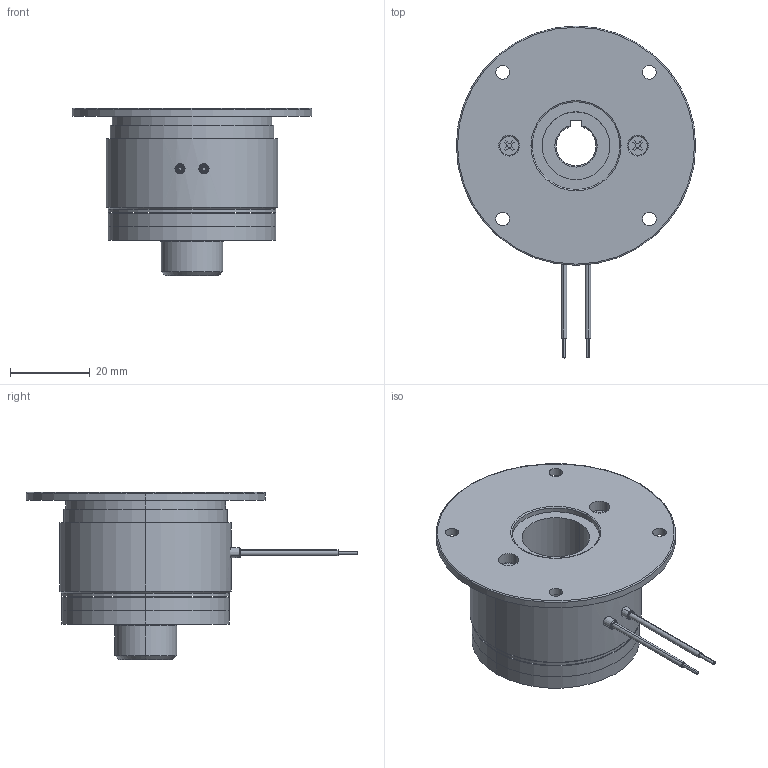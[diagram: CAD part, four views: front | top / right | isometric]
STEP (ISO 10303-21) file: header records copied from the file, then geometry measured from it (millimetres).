
FILE_DESCRIPTION (( 'STEP AP214' ), '1' );
FILE_NAME ('04P1130.STEP', '2026-04-23T06:22:08', ( '' ), ( '' ), 'SwSTEP 2.0', 'SolidWorks 2025', '' );
FILE_SCHEMA (( 'AUTOMOTIVE_DESIGN' ));
Length unit declared in the file: millimetre
Products named in the file (10): 10088627swa000; 10088626swp000_Einbaulänge 2,15mm; 04P1130; 10088633swa000; 10088628swp000; 10088614swp000; 10088629swp000; 10088626swp000_genietet (2,35mm Klemmlänge); 10088625swp000; 10088632swp000
Assembly tree (18 placements, depth 4):
  04P1130
    10088614swp000
    10088633swa000
      10088632swp000
      10088627swa000
        10088628swp000
        10088625swp000
        10088626swp000_genietet (2,35mm Klemmlänge)  x3
        10088629swp000  x3
      10088626swp000_Einbaulänge 2,15mm  x3
      10088629swp000  x3
Bounding box: 60 x 83.2 x 41.87 mm (x, y, z)
Volume: 41704.8 mm3; surface area: 20620.8 mm2
Topology: 18 solids, 18 shells, 380 faces, 862 edges, 528 vertices
Faces by surface type: cylinder 163, cone 94, plane 71, torus 40, sphere 12
Entity records: 8249 total; most frequent: DIRECTION 1524, CARTESIAN_POINT 1443, ORIENTED_EDGE 1228, AXIS2_PLACEMENT_3D 633, EDGE_CURVE 614, VERTEX_POINT 384, CIRCLE 344, EDGE_LOOP 338
